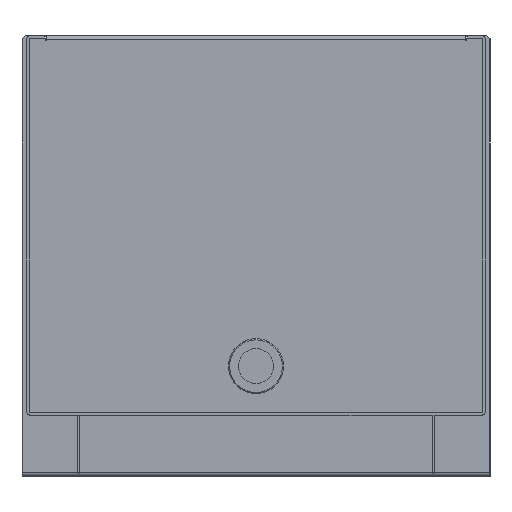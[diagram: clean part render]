
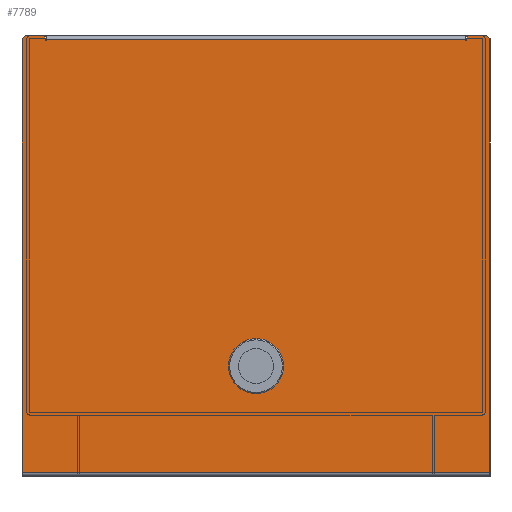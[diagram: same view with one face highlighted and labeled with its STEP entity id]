
A CAD part, left-side view. The second image highlights one B-rep face of the part: STEP entity #7789.
In plain terms, the highlighted planar face has unit normal (-1, 0, 0).
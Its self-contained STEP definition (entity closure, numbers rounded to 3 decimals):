
#264 = LINE ( 'NONE', #7899, #3731 ) ;
#300 = CARTESIAN_POINT ( 'NONE',  ( -630., 382.5, 620. ) ) ;
#317 = CARTESIAN_POINT ( 'NONE',  ( -630., -342.5, 614. ) ) ;
#723 = ORIENTED_EDGE ( 'NONE', *, *, #2707, .T. ) ;
#951 = DIRECTION ( 'NONE',  ( 0., 0., 1. ) ) ;
#1069 = CARTESIAN_POINT ( 'NONE',  ( -630., 0., 80. ) ) ;
#1309 = VERTEX_POINT ( 'NONE', #15048 ) ;
#1310 = VECTOR ( 'NONE', #11625, 1000. ) ;
#1321 = ORIENTED_EDGE ( 'NONE', *, *, #2780, .F. ) ;
#1476 = DIRECTION ( 'NONE',  ( 0., 1., 0. ) ) ;
#1488 = DIRECTION ( 'NONE',  ( 0., 0.707, 0.707 ) ) ;
#1798 = DIRECTION ( 'NONE',  ( 0., 1., 0. ) ) ;
#1845 = VERTEX_POINT ( 'NONE', #11369 ) ;
#1879 = PLANE ( 'NONE',  #2314 ) ;
#1982 = ORIENTED_EDGE ( 'NONE', *, *, #14364, .T. ) ;
#2024 = VERTEX_POINT ( 'NONE', #8995 ) ;
#2049 = VECTOR ( 'NONE', #14259, 1000. ) ;
#2060 = VECTOR ( 'NONE', #1476, 1000. ) ;
#2073 = EDGE_CURVE ( 'NONE', #7543, #12427, #14777, .T. ) ;
#2139 = VECTOR ( 'NONE', #1798, 1000. ) ;
#2222 = DIRECTION ( 'NONE',  ( 0., 0., 1. ) ) ;
#2314 = AXIS2_PLACEMENT_3D ( 'NONE', #10109, #4307, #12476 ) ;
#2401 = CARTESIAN_POINT ( 'NONE',  ( -630., 382.5, -94. ) ) ;
#2658 = VERTEX_POINT ( 'NONE', #4621 ) ;
#2707 = EDGE_CURVE ( 'NONE', #6177, #12427, #10728, .T. ) ;
#2752 = CARTESIAN_POINT ( 'NONE',  ( -630., 342.5, 614. ) ) ;
#2780 = EDGE_CURVE ( 'NONE', #3213, #7640, #3791, .T. ) ;
#2891 = VECTOR ( 'NONE', #12779, 1000. ) ;
#2937 = CARTESIAN_POINT ( 'NONE',  ( -630., -342.5, 0. ) ) ;
#3075 = DIRECTION ( 'NONE',  ( 0., 0., 1. ) ) ;
#3213 = VERTEX_POINT ( 'NONE', #8469 ) ;
#3367 = LINE ( 'NONE', #5459, #9197 ) ;
#3591 = DIRECTION ( 'NONE',  ( 0., -1., 0. ) ) ;
#3731 = VECTOR ( 'NONE', #5631, 1000. ) ;
#3748 = VERTEX_POINT ( 'NONE', #7383 ) ;
#3791 = LINE ( 'NONE', #10077, #12752 ) ;
#3866 = CARTESIAN_POINT ( 'NONE',  ( -630., 0., 112.5 ) ) ;
#4116 = DIRECTION ( 'NONE',  ( 0., 0., -1. ) ) ;
#4151 = CARTESIAN_POINT ( 'NONE',  ( -630., 0., 612. ) ) ;
#4154 = CARTESIAN_POINT ( 'NONE',  ( -630., -377.5, 620. ) ) ;
#4307 = DIRECTION ( 'NONE',  ( 1., 0., 0. ) ) ;
#4323 = FACE_OUTER_BOUND ( 'NONE', #4670, .T. ) ;
#4353 = EDGE_CURVE ( 'NONE', #2024, #7543, #12238, .T. ) ;
#4491 = ORIENTED_EDGE ( 'NONE', *, *, #13930, .T. ) ;
#4621 = CARTESIAN_POINT ( 'NONE',  ( -630., -382.5, 615. ) ) ;
#4670 = EDGE_LOOP ( 'NONE', ( #12653, #4491, #8079, #11166, #1982, #10033, #723, #10097, #5748, #6282, #8825, #1321, #10884, #8414 ) ) ;
#4856 = CARTESIAN_POINT ( 'NONE',  ( -630., 382.5, 615. ) ) ;
#4926 = DIRECTION ( 'NONE',  ( 0., 0., -1. ) ) ;
#4984 = VERTEX_POINT ( 'NONE', #9315 ) ;
#5314 = EDGE_LOOP ( 'NONE', ( #8857 ) ) ;
#5351 = VECTOR ( 'NONE', #3591, 1000. ) ;
#5459 = CARTESIAN_POINT ( 'NONE',  ( -630., 344.5, 0. ) ) ;
#5601 = VECTOR ( 'NONE', #1488, 1000. ) ;
#5631 = DIRECTION ( 'NONE',  ( 0., 1., 0. ) ) ;
#5748 = ORIENTED_EDGE ( 'NONE', *, *, #4353, .F. ) ;
#5767 = EDGE_CURVE ( 'NONE', #15073, #15073, #12014, .T. ) ;
#5937 = EDGE_CURVE ( 'NONE', #14535, #9426, #12551, .T. ) ;
#6078 = CARTESIAN_POINT ( 'NONE',  ( -630., -344.5, 612. ) ) ;
#6177 = VERTEX_POINT ( 'NONE', #4154 ) ;
#6282 = ORIENTED_EDGE ( 'NONE', *, *, #10517, .F. ) ;
#6608 = EDGE_CURVE ( 'NONE', #10198, #3213, #9801, .T. ) ;
#6624 = DIRECTION ( 'NONE',  ( 0., 0., -1. ) ) ;
#7383 = CARTESIAN_POINT ( 'NONE',  ( -630., 344.5, 620. ) ) ;
#7543 = VERTEX_POINT ( 'NONE', #6078 ) ;
#7564 = EDGE_CURVE ( 'NONE', #2658, #6177, #14182, .T. ) ;
#7640 = VERTEX_POINT ( 'NONE', #2752 ) ;
#7789 = ADVANCED_FACE ( 'NONE', ( #13260, #4323 ), #1879, .F. ) ;
#7899 = CARTESIAN_POINT ( 'NONE',  ( -630., 382.5, 620. ) ) ;
#7917 = CARTESIAN_POINT ( 'NONE',  ( -630., -344.5, 0. ) ) ;
#8079 = ORIENTED_EDGE ( 'NONE', *, *, #5937, .T. ) ;
#8247 = LINE ( 'NONE', #14209, #2049 ) ;
#8414 = ORIENTED_EDGE ( 'NONE', *, *, #9308, .F. ) ;
#8469 = CARTESIAN_POINT ( 'NONE',  ( -630., 342.5, 612. ) ) ;
#8729 = CARTESIAN_POINT ( 'NONE',  ( -630., 382.5, 620. ) ) ;
#8825 = ORIENTED_EDGE ( 'NONE', *, *, #13554, .T. ) ;
#8857 = ORIENTED_EDGE ( 'NONE', *, *, #5767, .F. ) ;
#8995 = CARTESIAN_POINT ( 'NONE',  ( -630., -342.5, 612. ) ) ;
#9047 = VECTOR ( 'NONE', #4926, 1000. ) ;
#9158 = LINE ( 'NONE', #2937, #15022 ) ;
#9197 = VECTOR ( 'NONE', #6624, 1000. ) ;
#9209 = DIRECTION ( 'NONE',  ( -1., 0., 0. ) ) ;
#9308 = EDGE_CURVE ( 'NONE', #3748, #10198, #3367, .T. ) ;
#9315 = CARTESIAN_POINT ( 'NONE',  ( -630., -342.5, 614. ) ) ;
#9426 = VERTEX_POINT ( 'NONE', #12771 ) ;
#9735 = EDGE_CURVE ( 'NONE', #9426, #1309, #11588, .T. ) ;
#9801 = LINE ( 'NONE', #4151, #10196 ) ;
#9833 = AXIS2_PLACEMENT_3D ( 'NONE', #1069, #9209, #2222 ) ;
#10033 = ORIENTED_EDGE ( 'NONE', *, *, #7564, .T. ) ;
#10077 = CARTESIAN_POINT ( 'NONE',  ( -630., 342.5, 0. ) ) ;
#10097 = ORIENTED_EDGE ( 'NONE', *, *, #2073, .F. ) ;
#10109 = CARTESIAN_POINT ( 'NONE',  ( -630., 0., 0. ) ) ;
#10196 = VECTOR ( 'NONE', #12342, 1000. ) ;
#10198 = VERTEX_POINT ( 'NONE', #11401 ) ;
#10418 = CARTESIAN_POINT ( 'NONE',  ( -630., 0., 612. ) ) ;
#10517 = EDGE_CURVE ( 'NONE', #4984, #2024, #9158, .T. ) ;
#10728 = LINE ( 'NONE', #8729, #2139 ) ;
#10884 = ORIENTED_EDGE ( 'NONE', *, *, #6608, .F. ) ;
#10987 = LINE ( 'NONE', #12741, #1310 ) ;
#11166 = ORIENTED_EDGE ( 'NONE', *, *, #9735, .T. ) ;
#11308 = CARTESIAN_POINT ( 'NONE',  ( -630., -344.5, 620. ) ) ;
#11369 = CARTESIAN_POINT ( 'NONE',  ( -630., 377.5, 620. ) ) ;
#11401 = CARTESIAN_POINT ( 'NONE',  ( -630., 344.5, 612. ) ) ;
#11588 = LINE ( 'NONE', #2401, #5351 ) ;
#11625 = DIRECTION ( 'NONE',  ( 0., 0., 1. ) ) ;
#11778 = LINE ( 'NONE', #317, #2060 ) ;
#12014 = CIRCLE ( 'NONE', #9833, 32.5 ) ;
#12055 = VECTOR ( 'NONE', #951, 1000. ) ;
#12238 = LINE ( 'NONE', #10418, #2891 ) ;
#12342 = DIRECTION ( 'NONE',  ( 0., -1., 0. ) ) ;
#12427 = VERTEX_POINT ( 'NONE', #11308 ) ;
#12476 = DIRECTION ( 'NONE',  ( 0., 0., -1. ) ) ;
#12551 = LINE ( 'NONE', #300, #9047 ) ;
#12653 = ORIENTED_EDGE ( 'NONE', *, *, #13265, .T. ) ;
#12741 = CARTESIAN_POINT ( 'NONE',  ( -630., -382.5, 620. ) ) ;
#12752 = VECTOR ( 'NONE', #3075, 1000. ) ;
#12771 = CARTESIAN_POINT ( 'NONE',  ( -630., 382.5, -94. ) ) ;
#12779 = DIRECTION ( 'NONE',  ( 0., -1., 0. ) ) ;
#13136 = CARTESIAN_POINT ( 'NONE',  ( -630., -382.5, 615. ) ) ;
#13260 = FACE_BOUND ( 'NONE', #5314, .T. ) ;
#13265 = EDGE_CURVE ( 'NONE', #3748, #1845, #264, .T. ) ;
#13554 = EDGE_CURVE ( 'NONE', #4984, #7640, #11778, .T. ) ;
#13930 = EDGE_CURVE ( 'NONE', #1845, #14535, #8247, .T. ) ;
#14182 = LINE ( 'NONE', #13136, #5601 ) ;
#14209 = CARTESIAN_POINT ( 'NONE',  ( -630., 377.5, 620. ) ) ;
#14259 = DIRECTION ( 'NONE',  ( 0., 0.707, -0.707 ) ) ;
#14364 = EDGE_CURVE ( 'NONE', #1309, #2658, #10987, .T. ) ;
#14535 = VERTEX_POINT ( 'NONE', #4856 ) ;
#14777 = LINE ( 'NONE', #7917, #12055 ) ;
#15022 = VECTOR ( 'NONE', #4116, 1000. ) ;
#15048 = CARTESIAN_POINT ( 'NONE',  ( -630., -382.5, -94. ) ) ;
#15073 = VERTEX_POINT ( 'NONE', #3866 ) ;
